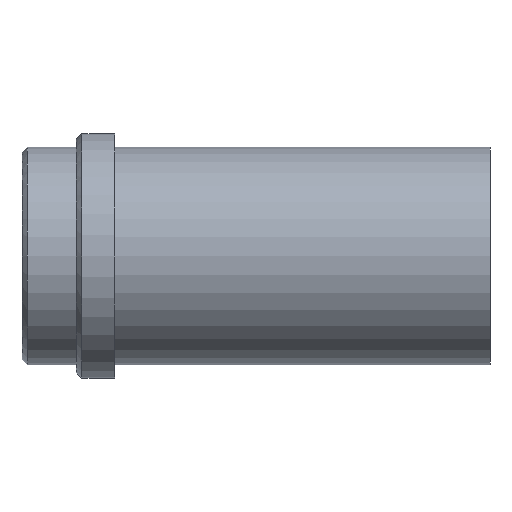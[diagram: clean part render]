
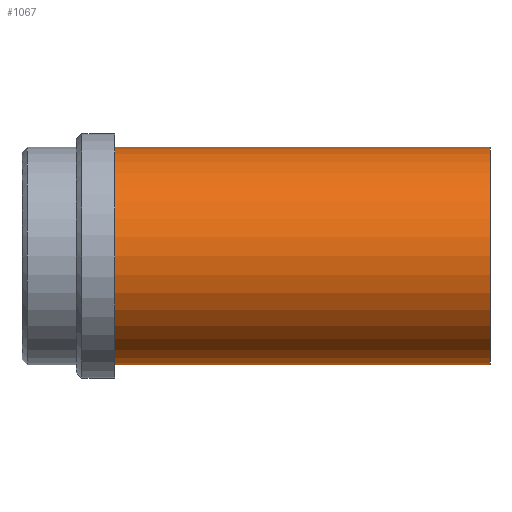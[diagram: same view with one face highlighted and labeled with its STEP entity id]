
A CAD part, front view. The second image highlights one B-rep face of the part: STEP entity #1067.
In plain terms, the highlighted cylindrical face has radius 20 mm (diameter 40 mm), a partial arc.
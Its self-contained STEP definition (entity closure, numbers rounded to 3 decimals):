
#953=CARTESIAN_POINT('Vertex',(0.,0.,-20.)) ;
#958=CARTESIAN_POINT('Axis2P3D Location',(0.,0.,0.)) ;
#962=CARTESIAN_POINT('Vertex',(0.,-20.,0.)) ;
#965=CARTESIAN_POINT('Axis2P3D Location',(0.,0.,0.)) ;
#969=CARTESIAN_POINT('Vertex',(0.,0.,20.)) ;
#995=CARTESIAN_POINT('Vertex',(69.,0.,20.)) ;
#998=CARTESIAN_POINT('Axis2P3D Location',(69.,0.,0.)) ;
#1002=CARTESIAN_POINT('Vertex',(69.,-20.,0.)) ;
#1005=CARTESIAN_POINT('Axis2P3D Location',(69.,0.,0.)) ;
#1009=CARTESIAN_POINT('Vertex',(69.,0.,-20.)) ;
#1035=CARTESIAN_POINT('Line Origine',(69.,0.,20.)) ;
#1040=CARTESIAN_POINT('Line Origine',(69.,0.,-20.)) ;
#1054=CARTESIAN_POINT('Axis2P3D Location',(69.,0.,0.)) ;
#959=DIRECTION('Axis2P3D Direction',(1.,0.,-0.)) ;
#966=DIRECTION('Axis2P3D Direction',(1.,0.,-0.)) ;
#999=DIRECTION('Axis2P3D Direction',(1.,0.,-0.)) ;
#1006=DIRECTION('Axis2P3D Direction',(1.,0.,-0.)) ;
#1036=DIRECTION('Vector Direction',(-1.,0.,0.)) ;
#1041=DIRECTION('Vector Direction',(-1.,0.,0.)) ;
#1055=DIRECTION('Axis2P3D Direction',(-1.,-0.,-0.)) ;
#1056=DIRECTION('Axis2P3D XDirection',(0.,0.,-1.)) ;
#960=AXIS2_PLACEMENT_3D('Circle Axis2P3D',#958,#959,$) ;
#967=AXIS2_PLACEMENT_3D('Circle Axis2P3D',#965,#966,$) ;
#1000=AXIS2_PLACEMENT_3D('Circle Axis2P3D',#998,#999,$) ;
#1007=AXIS2_PLACEMENT_3D('Circle Axis2P3D',#1005,#1006,$) ;
#1057=AXIS2_PLACEMENT_3D('Cylinder Axis2P3D',#1054,#1055,#1056) ;
#1060=ORIENTED_EDGE('',*,*,#1044,.T.) ;
#1061=ORIENTED_EDGE('',*,*,#1011,.F.) ;
#1062=ORIENTED_EDGE('',*,*,#1004,.F.) ;
#1063=ORIENTED_EDGE('',*,*,#1039,.T.) ;
#1064=ORIENTED_EDGE('',*,*,#971,.T.) ;
#1065=ORIENTED_EDGE('',*,*,#964,.T.) ;
#1037=VECTOR('Line Direction',#1036,1.) ;
#1042=VECTOR('Line Direction',#1041,1.) ;
#1067=ADVANCED_FACE('358-32X86',(#1066),#1058,.T.) ;
#961=CIRCLE('generated circle',#960,20.) ;
#968=CIRCLE('generated circle',#967,20.) ;
#1001=CIRCLE('generated circle',#1000,20.) ;
#1008=CIRCLE('generated circle',#1007,20.) ;
#1058=CYLINDRICAL_SURFACE('generated cylinder',#1057,20.) ;
#964=EDGE_CURVE('',#963,#954,#961,.T.) ;
#971=EDGE_CURVE('',#970,#963,#968,.T.) ;
#1004=EDGE_CURVE('',#996,#1003,#1001,.T.) ;
#1011=EDGE_CURVE('',#1003,#1010,#1008,.T.) ;
#1039=EDGE_CURVE('',#996,#970,#1038,.T.) ;
#1044=EDGE_CURVE('',#954,#1010,#1043,.F.) ;
#1059=EDGE_LOOP('',(#1060,#1061,#1062,#1063,#1064,#1065)) ;
#1066=FACE_OUTER_BOUND('',#1059,.T.) ;
#1038=LINE('Line',#1035,#1037) ;
#1043=LINE('Line',#1040,#1042) ;
#954=VERTEX_POINT('',#953) ;
#963=VERTEX_POINT('',#962) ;
#970=VERTEX_POINT('',#969) ;
#996=VERTEX_POINT('',#995) ;
#1003=VERTEX_POINT('',#1002) ;
#1010=VERTEX_POINT('',#1009) ;
